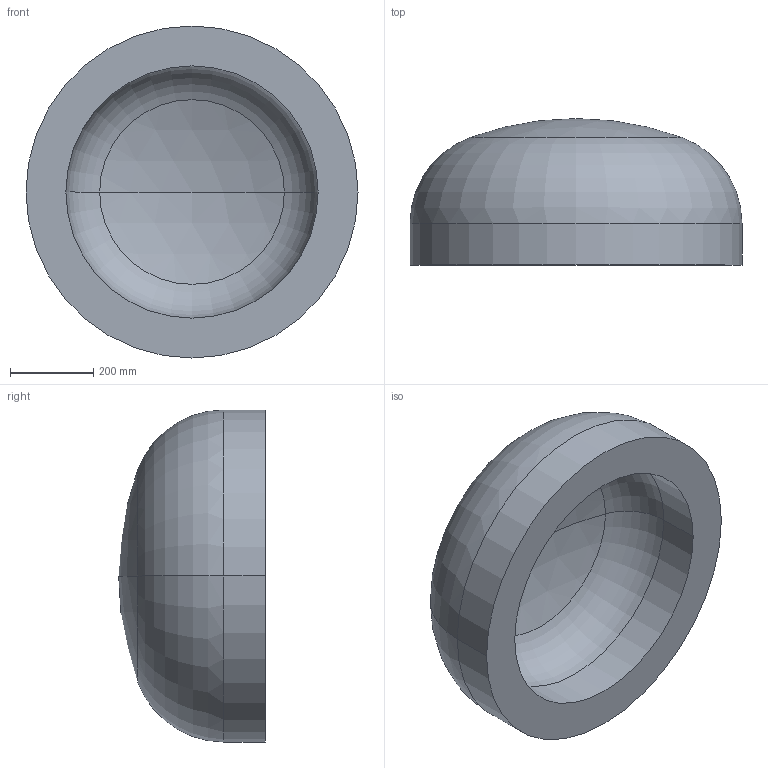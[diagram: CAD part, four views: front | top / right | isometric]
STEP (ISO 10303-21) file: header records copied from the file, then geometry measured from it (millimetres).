
FILE_DESCRIPTION (( 'STEP AP203' ), '1' );
FILE_NAME ('DIN 28013 Korbbogenform_-_Boden DIN 28013 - 800 x 100 - I - s=96.step', '2016-07-01T08:22:28', ( '' ), ( '' ), 'SwSTEP 2.0', 'SolidWorks 2013', '' );
FILE_SCHEMA (( 'CONFIG_CONTROL_DESIGN' ));
Length unit declared in the file: millimetre
Products named in the file (1): DIN 28013 Korbbogenform_-_Boden DIN 28013 - 800 x 100 - I - s=96
Bounding box: 800 x 353.11 x 800 mm (x, y, z)
Volume: 79133588.6 mm3; surface area: 1880239.6 mm2
Topology: 1 solids, 1 shells, 13 faces, 24 edges, 14 vertices
Faces by surface type: torus 4, cylinder 4, sphere 4, plane 1
Entity records: 407 total; most frequent: DIRECTION 72, CARTESIAN_POINT 52, ORIENTED_EDGE 48, AXIS2_PLACEMENT_3D 34, EDGE_CURVE 24, CIRCLE 20, EDGE_LOOP 14, VERTEX_POINT 14
